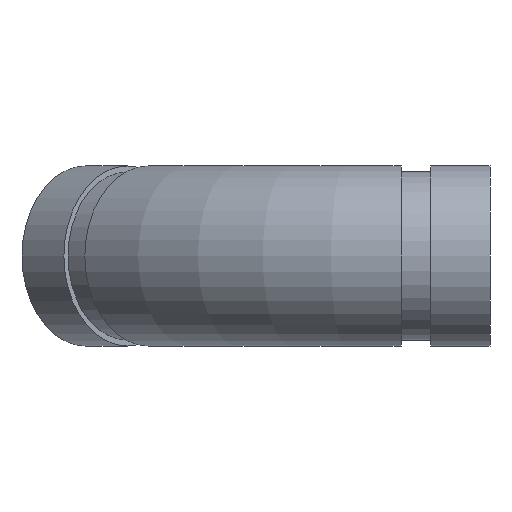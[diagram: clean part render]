
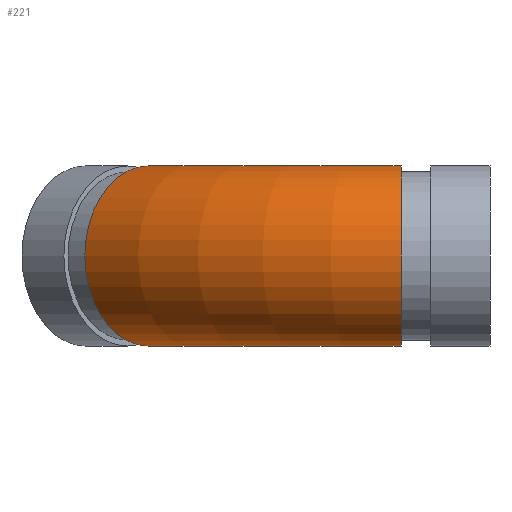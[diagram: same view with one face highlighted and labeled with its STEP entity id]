
A CAD part, left-side view. The second image highlights one B-rep face of the part: STEP entity #221.
In plain terms, the highlighted toroidal (fillet/blend) face has major radius 95.783 mm and minor radius 24.13 mm.
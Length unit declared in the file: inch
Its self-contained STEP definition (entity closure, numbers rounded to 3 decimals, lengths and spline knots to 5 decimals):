
#15=TOROIDAL_SURFACE('',#273,3.771,0.95);
#50=FACE_OUTER_BOUND('',#68,.T.);
#68=EDGE_LOOP('',(#178,#179,#180,#181));
#74=CIRCLE('',#246,0.95);
#83=CIRCLE('',#259,0.95);
#92=CIRCLE('',#274,2.821);
#94=VERTEX_POINT('',#357);
#103=VERTEX_POINT('',#380);
#112=EDGE_CURVE('',#94,#94,#74,.T.);
#122=EDGE_CURVE('',#103,#103,#83,.T.);
#135=EDGE_CURVE('',#94,#103,#92,.T.);
#178=ORIENTED_EDGE('',*,*,#112,.T.);
#179=ORIENTED_EDGE('',*,*,#135,.T.);
#180=ORIENTED_EDGE('',*,*,#122,.F.);
#181=ORIENTED_EDGE('',*,*,#135,.F.);
#221=ADVANCED_FACE('',(#50),#15,.T.);
#246=AXIS2_PLACEMENT_3D('',#358,#283,#284);
#259=AXIS2_PLACEMENT_3D('',#381,#310,#311);
#273=AXIS2_PLACEMENT_3D('',#406,#342,#343);
#274=AXIS2_PLACEMENT_3D('',#407,#344,#345);
#283=DIRECTION('center_axis',(0.,1.,0.));
#284=DIRECTION('ref_axis',(-1.,0.,0.));
#310=DIRECTION('center_axis',(0.707,0.707,0.));
#311=DIRECTION('ref_axis',(-0.707,0.707,0.));
#342=DIRECTION('center_axis',(0.,0.,1.));
#343=DIRECTION('ref_axis',(1.,0.,0.));
#344=DIRECTION('center_axis',(0.,0.,-1.));
#345=DIRECTION('ref_axis',(1.,0.,0.));
#357=CARTESIAN_POINT('',(0.95,0.938,0.));
#358=CARTESIAN_POINT('Origin',(0.,0.938,0.));
#380=CARTESIAN_POINT('',(1.77625,2.93275,0.));
#381=CARTESIAN_POINT('Origin',(1.1045,3.6045,0.));
#406=CARTESIAN_POINT('Origin',(3.771,0.938,0.));
#407=CARTESIAN_POINT('Origin',(3.771,0.938,0.));
